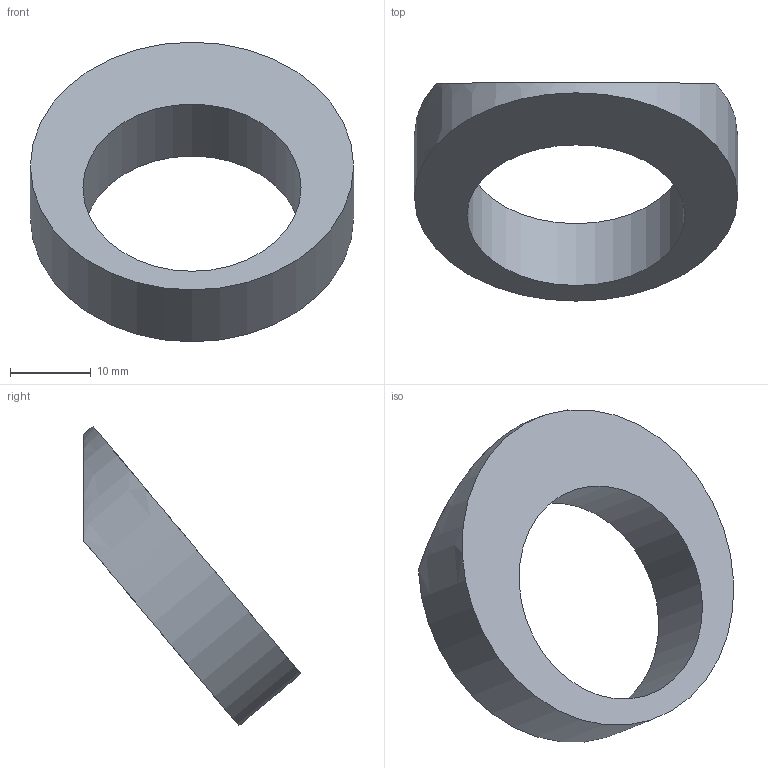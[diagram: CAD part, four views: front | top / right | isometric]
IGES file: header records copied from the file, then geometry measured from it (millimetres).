
Start section: Data from Parasolid IGES Translator 15.0.47, Copyright(c) 2006 Siemens P LM Software. All Rights Reserved.
Global section: file name: 9207443.igs; native system:  By UGS Corp.; preprocessor: XPlus GENERIC/IGES 3.0; author: Noname; organization: Noname; date: 20160223.150948; units: millimetre
Bounding box: 40 x 26.94 x 37.07 mm (x, y, z)
Surface area: 3469 mm2 (no closed solid volume)
Topology: 0 solids, 0 shells, 9 faces, 32 edges, 28 vertices
Faces by surface type: extrusion 5, revolution 4
